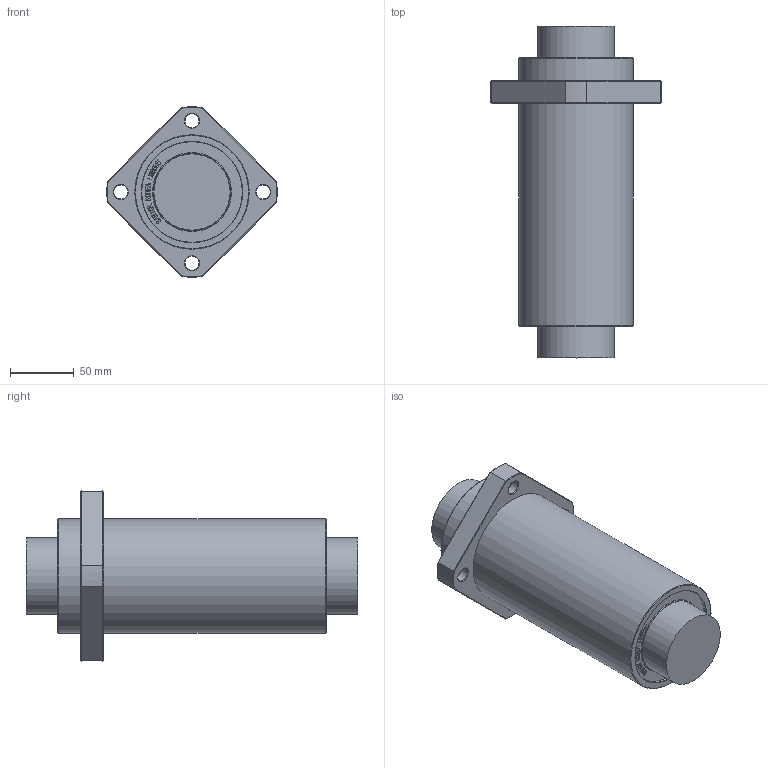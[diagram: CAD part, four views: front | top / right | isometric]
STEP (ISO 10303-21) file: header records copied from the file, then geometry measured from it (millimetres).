
FILE_DESCRIPTION(/* description */ (''),/* implementation_level */ '2;1');
FILE_NAME(/* name */ 'W:\(01) 2024년 홈페이지 CAD파일 최신화\LMEKP_L\IPT\LMEKP60LUU.stp',/* time_stamp */ '2025-01-25T13:03:53+09:00',/* author */ ('서우현'),/* organization */ (''),/* preprocessor_version */ 'ST-DEVELOPER v17.2',/* originating_system */ 'Autodesk Inventor 2019',/* authorisation */ '');
FILE_SCHEMA (('AUTOMOTIVE_DESIGN { 1 0 10303 214 3 1 1 }'));
Length unit declared in the file: millimetre
Products named in the file (1): LM5
Bounding box: 133.88 x 261 x 133.88 mm (x, y, z)
Volume: 1543857.3 mm3; surface area: 97094 mm2
Topology: 1 solids, 1 shells, 874 faces, 2442 edges, 1628 vertices
Faces by surface type: bspline 600, plane 234, cone 20, cylinder 18, torus 2
Full cylindrical faces by diameter (mm): 11 x4, 17.5 x4, 60 x2, 79.2 x2, 90 x2
Entity records: 29920 total; most frequent: CARTESIAN_POINT 11093, ORIENTED_EDGE 4884, EDGE_CURVE 2442, DIRECTION 1866, VERTEX_POINT 1628, B_SPLINE_CURVE_WITH_KNOTS 1200, LINE 1136, VECTOR 1136
